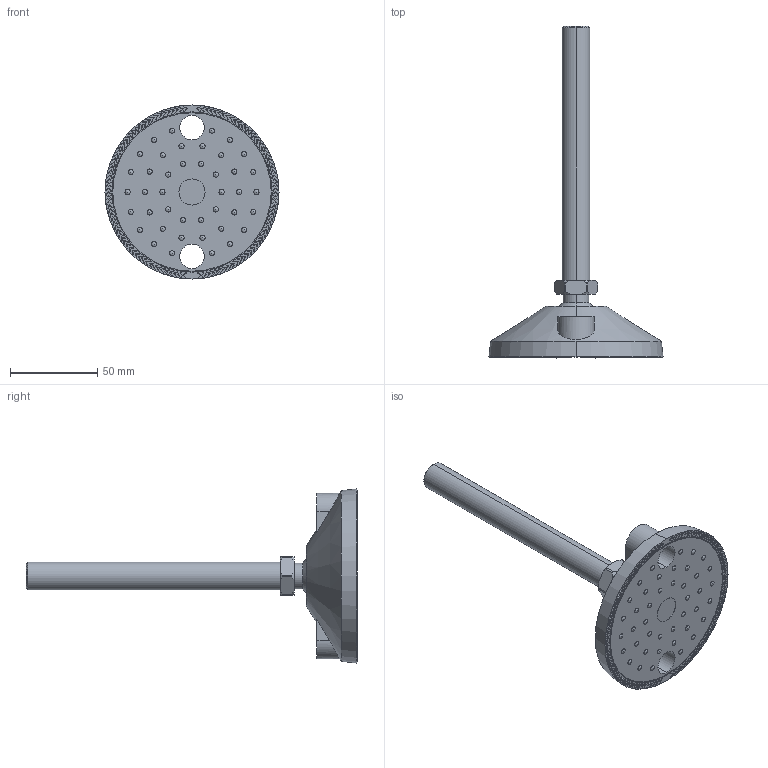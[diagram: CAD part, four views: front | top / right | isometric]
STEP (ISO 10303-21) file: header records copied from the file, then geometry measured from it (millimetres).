
FILE_DESCRIPTION (( 'STEP AP214' ), '1' );
FILE_NAME ('1.5026 S鳵t鐱alka D100 M16 C.STEP', '2025-09-17T08:19:58', ( '' ), ( '' ), 'SwSTEP 2.0', 'SolidWorks 2025', '' );
FILE_SCHEMA (( 'AUTOMOTIVE_DESIGN' ));
Length unit declared in the file: millimetre
Products named in the file (1): 1.5026 Säätöjalka D100 M16 C
Bounding box: 100 x 190.6 x 100 mm (x, y, z)
Volume: 175598.2 mm3; surface area: 30982 mm2
Topology: 1 solids, 1 shells, 1047 faces, 2758 edges, 1836 vertices
Faces by surface type: plane 601, cylinder 384, sphere 42, cone 20
Entity records: 43098 total; most frequent: CARTESIAN_POINT 5760, DIRECTION 5462, ORIENTED_EDGE 5264, EDGE_CURVE 2632, AXIS2_PLACEMENT_3D 1826, LINE 1810, VECTOR 1810, VERTEX_POINT 1752
